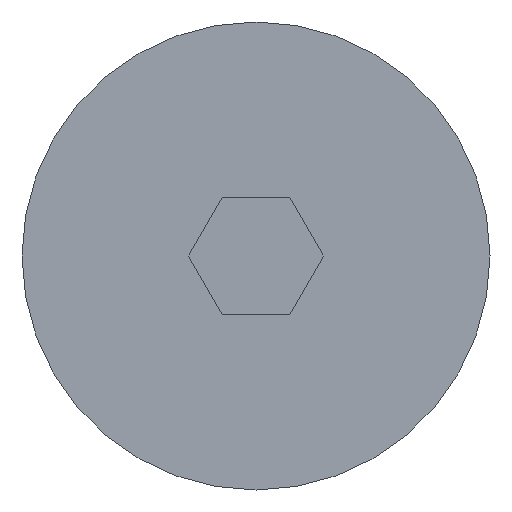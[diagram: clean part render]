
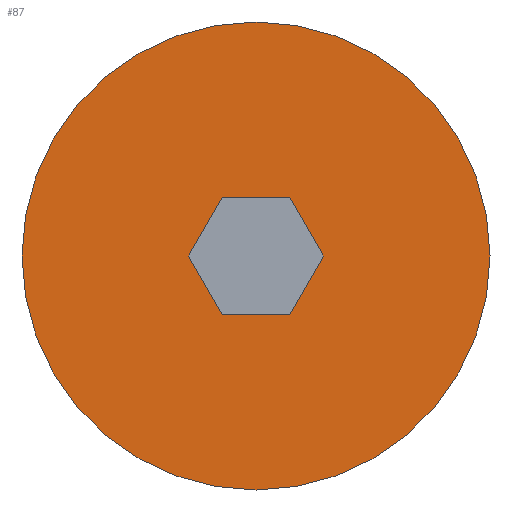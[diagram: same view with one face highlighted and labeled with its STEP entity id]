
A CAD part, left-side view. The second image highlights one B-rep face of the part: STEP entity #87.
In plain terms, the highlighted planar face has unit normal (-1, 0, 0).
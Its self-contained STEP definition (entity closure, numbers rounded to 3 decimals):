
#87=ADVANCED_FACE('',(#121,#122),#123,.T.);
#121=FACE_BOUND('',#166,.T.);
#122=FACE_OUTER_BOUND('',#167,.T.);
#123=PLANE('',#168);
#166=EDGE_LOOP('',(#273,#274,#275,#276,#277,#278));
#167=EDGE_LOOP('',(#279,#280));
#168=AXIS2_PLACEMENT_3D('',#281,#282,#283);
#273=ORIENTED_EDGE('',*,*,#366,.T.);
#274=ORIENTED_EDGE('',*,*,#372,.T.);
#275=ORIENTED_EDGE('',*,*,#369,.T.);
#276=ORIENTED_EDGE('',*,*,#356,.T.);
#277=ORIENTED_EDGE('',*,*,#360,.T.);
#278=ORIENTED_EDGE('',*,*,#363,.T.);
#279=ORIENTED_EDGE('',*,*,#353,.F.);
#280=ORIENTED_EDGE('',*,*,#374,.F.);
#281=CARTESIAN_POINT('',(-1.5,2.0,0.0));
#282=DIRECTION('',(-1.0,0.,0.0));
#283=DIRECTION('',(0.,-1.0,-0.0));
#353=EDGE_CURVE('',#408,#411,#412,.T.);
#356=EDGE_CURVE('',#416,#417,#418,.T.);
#360=EDGE_CURVE('',#417,#424,#425,.T.);
#363=EDGE_CURVE('',#424,#429,#430,.T.);
#366=EDGE_CURVE('',#429,#434,#435,.T.);
#369=EDGE_CURVE('',#439,#416,#440,.T.);
#372=EDGE_CURVE('',#434,#439,#444,.T.);
#374=EDGE_CURVE('',#411,#408,#446,.T.);
#408=VERTEX_POINT('',#488);
#411=VERTEX_POINT('',#492);
#412=CIRCLE('',#493,4.0);
#416=VERTEX_POINT('',#498);
#417=VERTEX_POINT('',#499);
#418=LINE('',#500,#501);
#424=VERTEX_POINT('',#510);
#425=LINE('',#511,#512);
#429=VERTEX_POINT('',#518);
#430=LINE('',#519,#520);
#434=VERTEX_POINT('',#526);
#435=LINE('',#527,#528);
#439=VERTEX_POINT('',#534);
#440=LINE('',#535,#536);
#444=LINE('',#542,#543);
#446=CIRCLE('',#546,4.0);
#488=CARTESIAN_POINT('',(-1.5,4.0,0.0));
#492=CARTESIAN_POINT('',(-1.5,-4.0,0.));
#493=AXIS2_PLACEMENT_3D('',#581,#582,#583);
#498=CARTESIAN_POINT('',(-1.5,0.577,-1.0));
#499=CARTESIAN_POINT('',(-1.5,1.155,0.));
#500=CARTESIAN_POINT('',(-1.5,1.116,-0.067));
#501=VECTOR('',#588,1.0);
#510=CARTESIAN_POINT('',(-1.5,0.577,1.0));
#511=CARTESIAN_POINT('',(-1.5,1.116,0.067));
#512=VECTOR('',#592,1.0);
#518=CARTESIAN_POINT('',(-1.5,-0.577,1.0));
#519=CARTESIAN_POINT('',(-1.5,1.0,1.0));
#520=VECTOR('',#595,1.0);
#526=CARTESIAN_POINT('',(-1.5,-1.155,0.));
#527=CARTESIAN_POINT('',(-1.5,-0.616,0.933));
#528=VECTOR('',#598,1.0);
#534=CARTESIAN_POINT('',(-1.5,-0.577,-1.0));
#535=CARTESIAN_POINT('',(-1.5,1.0,-1.0));
#536=VECTOR('',#601,1.0);
#542=CARTESIAN_POINT('',(-1.5,-0.616,-0.933));
#543=VECTOR('',#604,1.0);
#546=AXIS2_PLACEMENT_3D('',#606,#607,#608);
#581=CARTESIAN_POINT('',(-1.5,0.0,0.0));
#582=DIRECTION('',(1.0,0.0,0.0));
#583=DIRECTION('',(0.0,1.0,0.0));
#588=DIRECTION('',(0.,0.5,0.866));
#592=DIRECTION('',(0.,-0.5,0.866));
#595=DIRECTION('',(0.,-1.0,0.));
#598=DIRECTION('',(0.,-0.5,-0.866));
#601=DIRECTION('',(0.,1.0,0.0));
#604=DIRECTION('',(0.,0.5,-0.866));
#606=CARTESIAN_POINT('',(-1.5,0.0,0.0));
#607=DIRECTION('',(1.0,0.0,0.0));
#608=DIRECTION('',(0.0,1.0,0.0));
